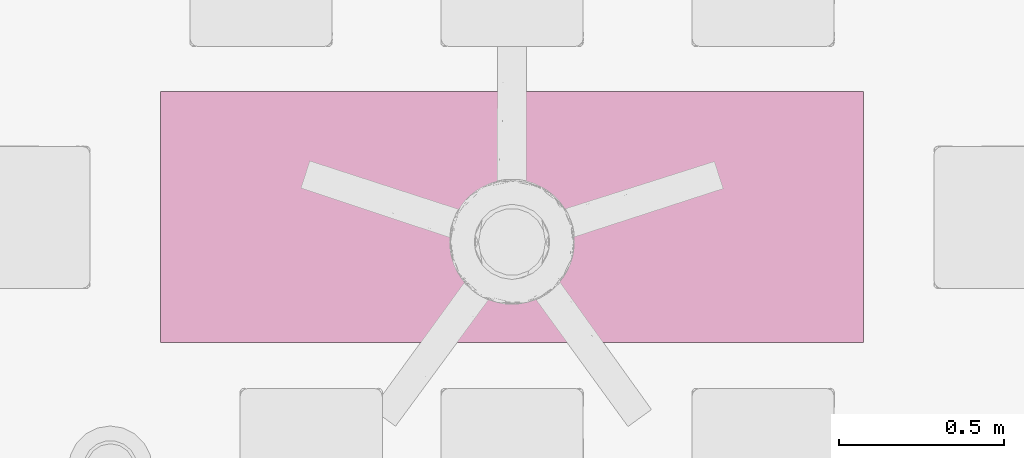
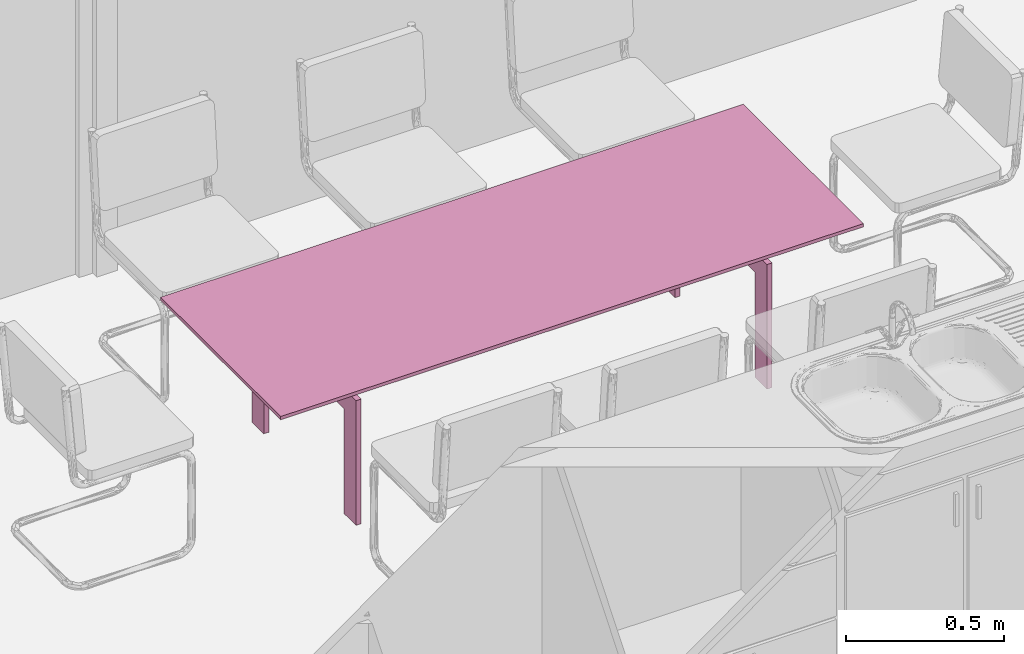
# One storey, part 20 of 21: 1 furnishing.
"""IFC2X3 building model written with IfcOpenShell, lengths in feet."""

from ifc_helpers import new_model, entity, si_unit, converted_unit, derived_unit, direction, frame, frame_2d, origin, origin_2d_with_axis, place, context, subcontext, project, spatial, polyline, rectangle, outline, extrude, source, transform, mapped, material, material_list, type_object, type_shapes, element, save


model = new_model("IFC2X3")

# Units and contexts
model_context = context("Model", 3, precision=0.0001, world=origin(), true_north=direction((6.12303176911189e-17, 1.0)))
body_context = subcontext(model_context, "Body", "Model", "MODEL_VIEW")
ifc_project = project(units=[converted_unit("LENGTHUNIT", "FOOT", entity("IfcRatioMeasure", 0.3048), si_unit("LENGTHUNIT", "METRE"), dimensions=[1, 0, 0, 0, 0, 0, 0]), converted_unit("AREAUNIT", "SQUARE FOOT", entity("IfcRatioMeasure", 0.09290304), si_unit("AREAUNIT", "SQUARE_METRE"), dimensions=[2, 0, 0, 0, 0, 0, 0]), converted_unit("VOLUMEUNIT", "CUBIC FOOT", entity("IfcRatioMeasure", 0.028316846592), si_unit("VOLUMEUNIT", "CUBIC_METRE"), dimensions=[3, 0, 0, 0, 0, 0, 0]), converted_unit("PLANEANGLEUNIT", "DEGREE", entity("IfcRatioMeasure", 0.0174532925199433), si_unit("PLANEANGLEUNIT", "RADIAN"), dimensions=[0, 0, 0, 0, 0, 0, 0]), si_unit("MASSUNIT", "GRAM", prefix="KILO"), derived_unit("MASSDENSITYUNIT", [(si_unit("MASSUNIT", "GRAM", prefix="KILO"), 1), (si_unit("LENGTHUNIT", "METRE"), -3)]), si_unit("TIMEUNIT", "SECOND"), si_unit("FREQUENCYUNIT", "HERTZ"), si_unit("THERMODYNAMICTEMPERATUREUNIT", "DEGREE_CELSIUS"), derived_unit("THERMALTRANSMITTANCEUNIT", [(si_unit("MASSUNIT", "GRAM", prefix="KILO"), 1), (si_unit("THERMODYNAMICTEMPERATUREUNIT", "KELVIN"), -1), (si_unit("TIMEUNIT", "SECOND"), -3)]), derived_unit("VOLUMETRICFLOWRATEUNIT", [(si_unit("LENGTHUNIT", "METRE"), 3), (si_unit("TIMEUNIT", "SECOND"), -1)]), si_unit("ELECTRICCURRENTUNIT", "AMPERE"), si_unit("ELECTRICVOLTAGEUNIT", "VOLT"), si_unit("POWERUNIT", "WATT"), si_unit("FORCEUNIT", "NEWTON"), si_unit("ILLUMINANCEUNIT", "LUX"), si_unit("LUMINOUSFLUXUNIT", "LUMEN"), si_unit("LUMINOUSINTENSITYUNIT", "CANDELA"), derived_unit("USERDEFINED", [(si_unit("MASSUNIT", "GRAM", prefix="KILO"), -1), (si_unit("LENGTHUNIT", "METRE"), -2), (si_unit("TIMEUNIT", "SECOND"), 3), (si_unit("LUMINOUSFLUXUNIT", "LUMEN"), 1)]), derived_unit("LINEARVELOCITYUNIT", [(si_unit("LENGTHUNIT", "METRE"), 1), (si_unit("TIMEUNIT", "SECOND"), -1)]), si_unit("PRESSUREUNIT", "PASCAL"), derived_unit("USERDEFINED", [(si_unit("LENGTHUNIT", "METRE"), -2), (si_unit("MASSUNIT", "GRAM", prefix="KILO"), 1), (si_unit("TIMEUNIT", "SECOND"), -2)])], contexts=[model_context])

# Site, building, storey
site_placement = place(None, origin())
site = spatial("IfcSite", under=ifc_project, at=site_placement, Name="表面", CompositionType="ELEMENT")
building_placement = place(site_placement, origin())
building = spatial("IfcBuilding", under=site, at=building_placement, CompositionType="ELEMENT")
storey_placement = place(building_placement, origin())
storey = spatial("IfcBuildingStorey", under=building, at=storey_placement, Name="Level 1", CompositionType="ELEMENT", Elevation=0.0)

# Furnishing
ifc_material_1 = material(Name="Metal - Chrome")
ifc_material_2 = material(Name="Glass - Clear, Grey")
ifc_material_list_1 = material_list([ifc_material_1, ifc_material_2])
ifc_material_list_2 = material_list([ifc_material_1, ifc_material_2])
furniture_type = type_object("IfcFurnitureType", Name="30\" x 84\" x 22\"", material=ifc_material_list_2)
shared_shape = source(origin(), body_context, "Body", "SweptSolid", [
    extrude(rectangle(XDim=6.33333333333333, YDim=0.0833333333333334, at=frame_2d((0.0, 5.55111512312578e-17), x_axis=(1.0, 0.0))), frame((0.0599270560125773, 0.935309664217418, 1.58333333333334), z_axis=(0.0, 0.0, 1.0), x_axis=(-1.0, 0.0, 0.0)), (0.0, 0.0, 1.0), 0.208333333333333),
    extrude(rectangle(XDim=6.33333333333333, YDim=0.0833333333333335, at=origin_2d_with_axis()), frame((0.0599270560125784, -0.31262769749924, 1.58333333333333), z_axis=(0.0, 0.0, 1.0), x_axis=(-1.0, 0.0, 0.0)), (0.0, 0.0, 1.0), 0.208333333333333),
    extrude(outline(polyline([(-0.729166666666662, -1.08333333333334), (0.854166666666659, -1.08333333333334), (0.85416666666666, 1.08333333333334), (-0.729166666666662, 1.08333333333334), (-0.729166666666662, 0.83333333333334), (0.604166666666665, 0.83333333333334), (0.604166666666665, -0.833333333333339), (-0.729166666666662, -0.833333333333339), (-0.729166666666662, -1.08333333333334)])), frame((2.49742705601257, 0.312372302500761, 0.729166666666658), z_axis=(1.0, 0.0, 0.0), x_axis=(0.0, 0.0, 1.0)), (0.0, 0.0, 1.0), 0.0625),
    extrude(outline(polyline([(-1.08333333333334, -0.854166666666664), (1.08333333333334, -0.854166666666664), (1.08333333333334, 0.729166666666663), (0.833333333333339, 0.729166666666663), (0.833333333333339, -0.604166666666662), (-0.83333333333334, -0.604166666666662), (-0.83333333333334, 0.729166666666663), (-1.08333333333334, 0.729166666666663), (-1.08333333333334, -0.854166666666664)])), frame((-2.44007294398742, 0.31237230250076, 0.729166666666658), z_axis=(1.0, 0.0, 0.0), x_axis=(0.0, -1.0, 0.0)), (0.0, 0.0, 1.0), 0.0625),
    extrude(rectangle(XDim=7.0, YDim=2.50000000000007, at=origin_2d_with_axis()), frame((0.0599270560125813, 0.312372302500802, 1.79166666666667), z_axis=(0.0, 0.0, 1.0), x_axis=(-1.0, 0.0, 0.0)), (0.0, 0.0, 1.0), 0.0416666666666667),
])
type_shapes(furniture_type, [shared_shape])
furnishing_placement = place(storey_placement, frame((-5.26150680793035, 11.8700213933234, 0.34375)))
element("IfcFurnishingElement", 1, at=furnishing_placement, inside=storey, type_object=furniture_type, material=ifc_material_list_1, Name="Table-Dining:30\" x 84\" x 22\"", ObjectType="30\" x 84\" x 22\"", context=body_context, shape_type="MappedRepresentation", body=[
    mapped(shared_shape, transform((0.0, 0.0, 0.0), scale=1.0)),
])

save(model, "model.ifc")
